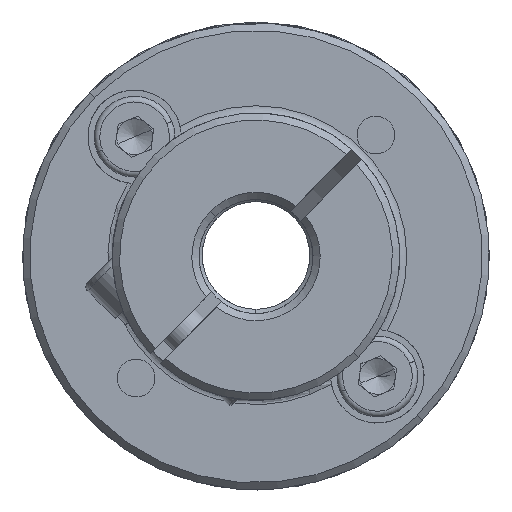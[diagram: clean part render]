
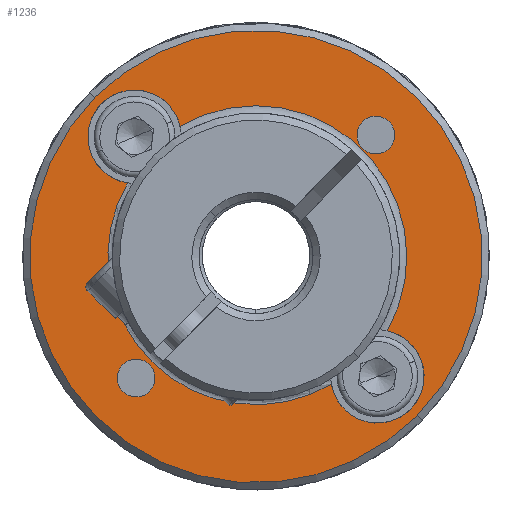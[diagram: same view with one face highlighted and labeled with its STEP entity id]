
A CAD part, front view. The second image highlights one B-rep face of the part: STEP entity #1236.
In plain terms, the highlighted planar face has unit normal (0, -1, 0).
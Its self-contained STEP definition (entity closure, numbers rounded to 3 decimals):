
#181 = DIRECTION ( 'NONE',  ( 0., 1., 0. ) ) ;
#240 = EDGE_CURVE ( 'NONE', #15272, #13823, #2201, .T. ) ;
#293 = CARTESIAN_POINT ( 'NONE',  ( -11.23, -18.979, 30.041 ) ) ;
#404 = CARTESIAN_POINT ( 'NONE',  ( -4.076, -18.979, 25.938 ) ) ;
#531 = DIRECTION ( 'NONE',  ( 0., -1., 0. ) ) ;
#713 = CIRCLE ( 'NONE', #8561, 1.05 ) ;
#730 = FACE_BOUND ( 'NONE', #19397, .T. ) ;
#736 = VERTEX_POINT ( 'NONE', #16277 ) ;
#968 = VERTEX_POINT ( 'NONE', #293 ) ;
#1013 = CARTESIAN_POINT ( 'NONE',  ( -10.837, -18.979, 32.611 ) ) ;
#1236 = ADVANCED_FACE ( 'NONE', ( #4729, #730, #5433, #1469 ), #3916, .T. ) ;
#1337 = CARTESIAN_POINT ( 'NONE',  ( 2.598, -18.979, 32.699 ) ) ;
#1469 = FACE_BOUND ( 'NONE', #14420, .T. ) ;
#1661 = CIRCLE ( 'NONE', #17232, 2.6 ) ;
#1868 = VERTEX_POINT ( 'NONE', #3839 ) ;
#2201 = CIRCLE ( 'NONE', #5867, 1.05 ) ;
#2584 = CARTESIAN_POINT ( 'NONE',  ( 3.345, -18.979, 31.962 ) ) ;
#2988 = ORIENTED_EDGE ( 'NONE', *, *, #9015, .T. ) ;
#3094 = ORIENTED_EDGE ( 'NONE', *, *, #9265, .T. ) ;
#3097 = EDGE_CURVE ( 'NONE', #18435, #968, #18567, .T. ) ;
#3350 = ORIENTED_EDGE ( 'NONE', *, *, #18753, .T. ) ;
#3774 = EDGE_CURVE ( 'NONE', #6160, #9446, #17352, .T. ) ;
#3839 = CARTESIAN_POINT ( 'NONE',  ( 3.238, -18.979, 21.805 ) ) ;
#3900 = DIRECTION ( 'NONE',  ( -0.712, 0., 0.702 ) ) ;
#3916 = PLANE ( 'NONE',  #16343 ) ;
#4009 = EDGE_CURVE ( 'NONE', #9446, #1868, #12415, .T. ) ;
#4165 = CARTESIAN_POINT ( 'NONE',  ( -13.043, -18.979, 34.789 ) ) ;
#4166 = CARTESIAN_POINT ( 'NONE',  ( 2.598, -18.979, 32.699 ) ) ;
#4391 = VERTEX_POINT ( 'NONE', #4165 ) ;
#4729 = FACE_OUTER_BOUND ( 'NONE', #18972, .T. ) ;
#5054 = DIRECTION ( 'NONE',  ( 0., 1., 0. ) ) ;
#5433 = FACE_BOUND ( 'NONE', #7778, .T. ) ;
#5543 = DIRECTION ( 'NONE',  ( -0.712, 0., 0.702 ) ) ;
#5867 = AXIS2_PLACEMENT_3D ( 'NONE', #4166, #16176, #3900 ) ;
#6160 = VERTEX_POINT ( 'NONE', #8919 ) ;
#6472 = ORIENTED_EDGE ( 'NONE', *, *, #16732, .T. ) ;
#6608 = DIRECTION ( 'NONE',  ( 0., 1., 0. ) ) ;
#6672 = CARTESIAN_POINT ( 'NONE',  ( 1.85, -18.979, 33.437 ) ) ;
#6874 = CARTESIAN_POINT ( 'NONE',  ( -11.496, -18.979, 19.914 ) ) ;
#6973 = ORIENTED_EDGE ( 'NONE', *, *, #7809, .T. ) ;
#7187 = AXIS2_PLACEMENT_3D ( 'NONE', #7260, #8963, #19343 ) ;
#7260 = CARTESIAN_POINT ( 'NONE',  ( -4.076, -18.979, 25.938 ) ) ;
#7396 = CARTESIAN_POINT ( 'NONE',  ( 0.121, -18.979, 18.838 ) ) ;
#7582 = AXIS2_PLACEMENT_3D ( 'NONE', #1013, #8525, #5543 ) ;
#7632 = CARTESIAN_POINT ( 'NONE',  ( -10.749, -18.979, 19.176 ) ) ;
#7714 = DIRECTION ( 'NONE',  ( -0.712, 0., 0.702 ) ) ;
#7778 = EDGE_LOOP ( 'NONE', ( #8450, #6973 ) ) ;
#7809 = EDGE_CURVE ( 'NONE', #13745, #8607, #12055, .T. ) ;
#7998 = CIRCLE ( 'NONE', #7187, 12.6 ) ;
#8450 = ORIENTED_EDGE ( 'NONE', *, *, #18012, .T. ) ;
#8525 = DIRECTION ( 'NONE',  ( 0., 1., 0. ) ) ;
#8533 = CARTESIAN_POINT ( 'NONE',  ( 4.892, -18.979, 17.087 ) ) ;
#8561 = AXIS2_PLACEMENT_3D ( 'NONE', #1337, #10273, #13166 ) ;
#8607 = VERTEX_POINT ( 'NONE', #12505 ) ;
#8842 = EDGE_CURVE ( 'NONE', #13823, #15272, #713, .T. ) ;
#8919 = CARTESIAN_POINT ( 'NONE',  ( -12.688, -18.979, 34.437 ) ) ;
#8963 = DIRECTION ( 'NONE',  ( 0., -1., 0. ) ) ;
#8981 = CARTESIAN_POINT ( 'NONE',  ( -4.076, -18.979, 25.938 ) ) ;
#9015 = EDGE_CURVE ( 'NONE', #736, #18435, #12462, .T. ) ;
#9265 = EDGE_CURVE ( 'NONE', #1868, #736, #1661, .T. ) ;
#9446 = VERTEX_POINT ( 'NONE', #13469 ) ;
#9489 = DIRECTION ( 'NONE',  ( 0., 1., 0. ) ) ;
#9804 = VERTEX_POINT ( 'NONE', #8533 ) ;
#10227 = DIRECTION ( 'NONE',  ( 0., 1., 0. ) ) ;
#10273 = DIRECTION ( 'NONE',  ( 0., 1., 0. ) ) ;
#10309 = AXIS2_PLACEMENT_3D ( 'NONE', #15190, #16715, #7714 ) ;
#10817 = DIRECTION ( 'NONE',  ( -0.712, 0., 0.702 ) ) ;
#10981 = CARTESIAN_POINT ( 'NONE',  ( -4.076, -18.979, 25.938 ) ) ;
#11070 = CARTESIAN_POINT ( 'NONE',  ( -10.837, -18.979, 32.611 ) ) ;
#11232 = ORIENTED_EDGE ( 'NONE', *, *, #3774, .T. ) ;
#11558 = CIRCLE ( 'NONE', #11871, 1.05 ) ;
#11701 = AXIS2_PLACEMENT_3D ( 'NONE', #11070, #6608, #10817 ) ;
#11871 = AXIS2_PLACEMENT_3D ( 'NONE', #16975, #9489, #15461 ) ;
#12055 = CIRCLE ( 'NONE', #18106, 1.05 ) ;
#12363 = DIRECTION ( 'NONE',  ( -0.712, 0., 0.702 ) ) ;
#12386 = ORIENTED_EDGE ( 'NONE', *, *, #8842, .T. ) ;
#12415 = CIRCLE ( 'NONE', #13768, 8.4 ) ;
#12462 = CIRCLE ( 'NONE', #10309, 2.6 ) ;
#12486 = DIRECTION ( 'NONE',  ( -0.712, 0., 0.702 ) ) ;
#12505 = CARTESIAN_POINT ( 'NONE',  ( -10.002, -18.979, 18.439 ) ) ;
#13001 = CIRCLE ( 'NONE', #11701, 2.6 ) ;
#13166 = DIRECTION ( 'NONE',  ( -0.712, 0., 0.702 ) ) ;
#13469 = CARTESIAN_POINT ( 'NONE',  ( -8.304, -18.979, 33.196 ) ) ;
#13745 = VERTEX_POINT ( 'NONE', #6874 ) ;
#13768 = AXIS2_PLACEMENT_3D ( 'NONE', #8981, #10227, #16198 ) ;
#13823 = VERTEX_POINT ( 'NONE', #2584 ) ;
#14153 = ORIENTED_EDGE ( 'NONE', *, *, #15103, .T. ) ;
#14381 = ORIENTED_EDGE ( 'NONE', *, *, #3097, .T. ) ;
#14420 = EDGE_LOOP ( 'NONE', ( #3094, #2988, #14381, #14153, #11232, #18612 ) ) ;
#14515 = CARTESIAN_POINT ( 'NONE',  ( 2.686, -18.979, 19.264 ) ) ;
#14644 = DIRECTION ( 'NONE',  ( 0., 1., 0. ) ) ;
#15103 = EDGE_CURVE ( 'NONE', #968, #6160, #13001, .T. ) ;
#15190 = CARTESIAN_POINT ( 'NONE',  ( 2.686, -18.979, 19.264 ) ) ;
#15272 = VERTEX_POINT ( 'NONE', #6672 ) ;
#15461 = DIRECTION ( 'NONE',  ( -0.712, 0., 0.702 ) ) ;
#15927 = CARTESIAN_POINT ( 'NONE',  ( -4.076, -18.979, 25.938 ) ) ;
#16176 = DIRECTION ( 'NONE',  ( 0., 1., 0. ) ) ;
#16198 = DIRECTION ( 'NONE',  ( -0.712, 0., 0.702 ) ) ;
#16277 = CARTESIAN_POINT ( 'NONE',  ( 4.536, -18.979, 17.438 ) ) ;
#16304 = DIRECTION ( 'NONE',  ( -0.712, 0., 0.702 ) ) ;
#16343 = AXIS2_PLACEMENT_3D ( 'NONE', #15927, #18965, #16304 ) ;
#16715 = DIRECTION ( 'NONE',  ( 0., 1., 0. ) ) ;
#16732 = EDGE_CURVE ( 'NONE', #4391, #9804, #7998, .T. ) ;
#16975 = CARTESIAN_POINT ( 'NONE',  ( -10.749, -18.979, 19.176 ) ) ;
#17232 = AXIS2_PLACEMENT_3D ( 'NONE', #14515, #14644, #17595 ) ;
#17352 = CIRCLE ( 'NONE', #7582, 2.6 ) ;
#17595 = DIRECTION ( 'NONE',  ( -0.712, 0., 0.702 ) ) ;
#17743 = CIRCLE ( 'NONE', #18163, 12.6 ) ;
#17988 = ORIENTED_EDGE ( 'NONE', *, *, #240, .T. ) ;
#18012 = EDGE_CURVE ( 'NONE', #8607, #13745, #11558, .T. ) ;
#18106 = AXIS2_PLACEMENT_3D ( 'NONE', #7632, #181, #18325 ) ;
#18163 = AXIS2_PLACEMENT_3D ( 'NONE', #404, #531, #12363 ) ;
#18325 = DIRECTION ( 'NONE',  ( -0.712, 0., 0.702 ) ) ;
#18389 = AXIS2_PLACEMENT_3D ( 'NONE', #10981, #5054, #12486 ) ;
#18435 = VERTEX_POINT ( 'NONE', #7396 ) ;
#18567 = CIRCLE ( 'NONE', #18389, 8.247 ) ;
#18612 = ORIENTED_EDGE ( 'NONE', *, *, #4009, .T. ) ;
#18753 = EDGE_CURVE ( 'NONE', #9804, #4391, #17743, .T. ) ;
#18965 = DIRECTION ( 'NONE',  ( 0., -1., 0. ) ) ;
#18972 = EDGE_LOOP ( 'NONE', ( #3350, #6472 ) ) ;
#19343 = DIRECTION ( 'NONE',  ( -0.712, 0., 0.702 ) ) ;
#19397 = EDGE_LOOP ( 'NONE', ( #12386, #17988 ) ) ;
